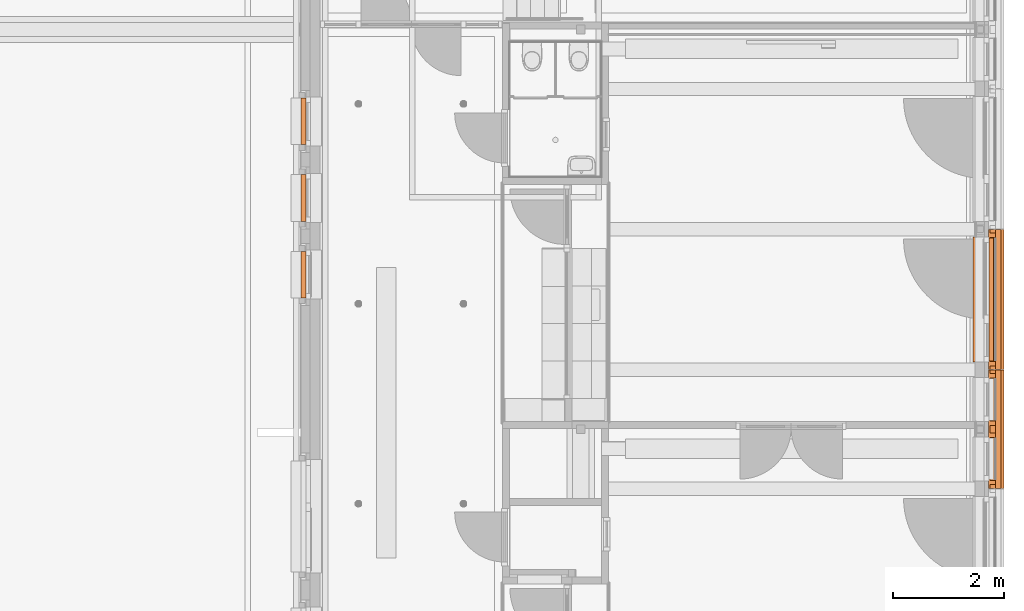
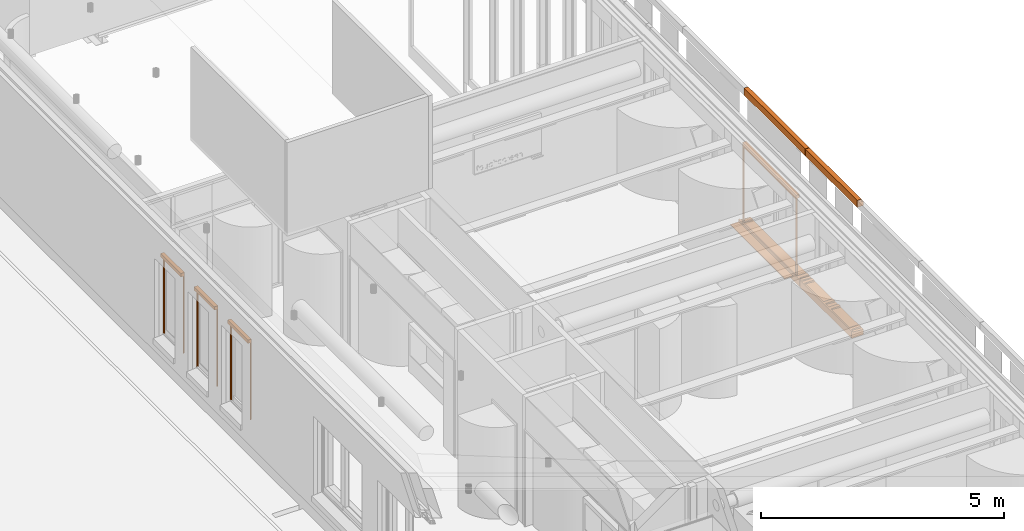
# One storey, part 104 of 128: 9 proxies.
"""IFC2X3 building model written with IfcOpenShell, lengths in millimetres."""

from ifc_helpers import new_model, entity, si_unit, converted_unit, derived_unit, direction, frame, frame_2d, origin, origin_2d_with_axis, place, context, subcontext, project, spatial, polyline, circle_curve, parameter, trimmed, segment, composite_curve, rectangle, outline, extrude, source, transform, mapped, material, material_list, type_object, type_shapes, element, save


model = new_model("IFC2X3")

# Units and contexts
model_context = context("Model", 3, precision=0.01, world=origin(), true_north=direction((6.123031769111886e-17, 1.0)))
body_context = subcontext(model_context, "Body", "Model", "MODEL_VIEW")
ifc_project = project(units=[si_unit("LENGTHUNIT", "METRE", prefix="MILLI"), si_unit("AREAUNIT", "SQUARE_METRE"), si_unit("VOLUMEUNIT", "CUBIC_METRE"), converted_unit("PLANEANGLEUNIT", "DEGREE", entity("IfcRatioMeasure", 0.017453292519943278), si_unit("PLANEANGLEUNIT", "RADIAN"), dimensions=[0, 0, 0, 0, 0, 0, 0]), si_unit("MASSUNIT", "GRAM", prefix="KILO"), derived_unit("MASSDENSITYUNIT", [(si_unit("MASSUNIT", "GRAM", prefix="KILO"), 1), (si_unit("LENGTHUNIT", "METRE"), -3)]), derived_unit("IONCONCENTRATIONUNIT", [(si_unit("MASSUNIT", "GRAM", prefix="KILO"), 1), (si_unit("LENGTHUNIT", "METRE"), -3)]), derived_unit("MOMENTOFINERTIAUNIT", [(si_unit("LENGTHUNIT", "METRE"), 4)]), si_unit("TIMEUNIT", "SECOND"), si_unit("FREQUENCYUNIT", "HERTZ"), si_unit("THERMODYNAMICTEMPERATUREUNIT", "DEGREE_CELSIUS"), derived_unit("THERMALTRANSMITTANCEUNIT", [(si_unit("MASSUNIT", "GRAM", prefix="KILO"), 1), (si_unit("THERMODYNAMICTEMPERATUREUNIT", "KELVIN"), -1), (si_unit("TIMEUNIT", "SECOND"), -3)]), derived_unit("THERMALCONDUCTANCEUNIT", [(si_unit("MASSUNIT", "GRAM", prefix="KILO"), 1), (si_unit("THERMODYNAMICTEMPERATUREUNIT", "KELVIN"), -1), (si_unit("TIMEUNIT", "SECOND"), -3), (si_unit("LENGTHUNIT", "METRE"), 1)]), derived_unit("VOLUMETRICFLOWRATEUNIT", [(si_unit("LENGTHUNIT", "METRE"), 3), (si_unit("TIMEUNIT", "SECOND"), -1)]), derived_unit("MASSFLOWRATEUNIT", [(si_unit("MASSUNIT", "GRAM", prefix="KILO"), 1), (si_unit("TIMEUNIT", "SECOND"), -1)]), derived_unit("ROTATIONALFREQUENCYUNIT", [(si_unit("TIMEUNIT", "SECOND"), -1)]), si_unit("ELECTRICCURRENTUNIT", "AMPERE"), si_unit("ELECTRICVOLTAGEUNIT", "VOLT"), si_unit("POWERUNIT", "WATT"), si_unit("FORCEUNIT", "NEWTON", prefix="KILO"), si_unit("ILLUMINANCEUNIT", "LUX"), si_unit("LUMINOUSFLUXUNIT", "LUMEN"), si_unit("LUMINOUSINTENSITYUNIT", "CANDELA"), derived_unit("USERDEFINED", [(si_unit("MASSUNIT", "GRAM", prefix="KILO"), -1), (si_unit("LENGTHUNIT", "METRE"), -2), (si_unit("TIMEUNIT", "SECOND"), 3), (si_unit("LUMINOUSFLUXUNIT", "LUMEN"), 1)]), derived_unit("USERDEFINED", [(si_unit("MASSUNIT", "GRAM", prefix="KILO"), 1), (si_unit("TIMEUNIT", "SECOND"), -3), (si_unit("LENGTHUNIT", "METRE"), 3), (si_unit("ELECTRICCURRENTUNIT", "AMPERE"), -2)]), derived_unit("SOUNDPOWERUNIT", [(si_unit("MASSUNIT", "GRAM", prefix="KILO"), 1), (si_unit("TIMEUNIT", "SECOND"), -3), (si_unit("LENGTHUNIT", "METRE"), 2)]), derived_unit("SOUNDPRESSUREUNIT", [(si_unit("MASSUNIT", "GRAM", prefix="KILO"), 1), (si_unit("LENGTHUNIT", "METRE"), -1), (si_unit("TIMEUNIT", "SECOND"), -2)]), derived_unit("LINEARVELOCITYUNIT", [(si_unit("LENGTHUNIT", "METRE"), 1), (si_unit("TIMEUNIT", "SECOND"), -1)]), si_unit("PRESSUREUNIT", "PASCAL"), derived_unit("USERDEFINED", [(si_unit("MASSUNIT", "GRAM", prefix="KILO"), 1), (si_unit("LENGTHUNIT", "METRE"), -2), (si_unit("TIMEUNIT", "SECOND"), -2)]), derived_unit("LINEARFORCEUNIT", [(si_unit("MASSUNIT", "GRAM", prefix="KILO"), 1), (si_unit("TIMEUNIT", "SECOND"), -2)]), derived_unit("PLANARFORCEUNIT", [(si_unit("MASSUNIT", "GRAM", prefix="KILO"), 1), (si_unit("LENGTHUNIT", "METRE"), -1), (si_unit("TIMEUNIT", "SECOND"), -2)]), derived_unit("SPECIFICHEATCAPACITYUNIT", [(si_unit("THERMODYNAMICTEMPERATUREUNIT", "KELVIN"), -1), (si_unit("LENGTHUNIT", "METRE"), 2), (si_unit("TIMEUNIT", "SECOND"), -2)]), derived_unit("HEATINGVALUEUNIT", [(si_unit("LENGTHUNIT", "METRE"), 2), (si_unit("TIMEUNIT", "SECOND"), -2)]), derived_unit("VAPORPERMEABILITYUNIT", [(si_unit("LENGTHUNIT", "METRE"), -1), (si_unit("TIMEUNIT", "SECOND"), 1)]), derived_unit("DYNAMICVISCOSITYUNIT", [(si_unit("MASSUNIT", "GRAM", prefix="KILO"), 1), (si_unit("TIMEUNIT", "SECOND"), -1), (si_unit("LENGTHUNIT", "METRE"), -1)]), derived_unit("THERMALEXPANSIONCOEFFICIENTUNIT", [(si_unit("THERMODYNAMICTEMPERATUREUNIT", "KELVIN"), -1)]), derived_unit("MODULUSOFELASTICITYUNIT", [(si_unit("MASSUNIT", "GRAM", prefix="KILO"), 1), (si_unit("LENGTHUNIT", "METRE"), -1), (si_unit("TIMEUNIT", "SECOND"), -2)]), derived_unit("ISOTHERMALMOISTURECAPACITYUNIT", [(si_unit("LENGTHUNIT", "METRE"), 3), (si_unit("MASSUNIT", "GRAM", prefix="KILO"), -1)]), derived_unit("MOISTUREDIFFUSIVITYUNIT", [(si_unit("TIMEUNIT", "SECOND"), -1), (si_unit("LENGTHUNIT", "METRE"), 2)])], contexts=[model_context])

# Site, building, storey
site_placement = place(None, frame((0.0, 300.0, 0.0)))
site = spatial("IfcSite", under=ifc_project, at=site_placement, Name="<Kadastrale nummers>", CompositionType="ELEMENT")
building_placement = place(site_placement, origin())
building = spatial("IfcBuilding", under=site, at=building_placement, CompositionType="ELEMENT")
storey_placement = place(building_placement, frame((0.0, 0.0, 3560.0000331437)))
storey = spatial("IfcBuildingStorey", under=building, at=storey_placement, Name="01 eerste verdieping", CompositionType="ELEMENT", Elevation=3560.0000331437)

# Proxies
ifc_material_1 = material(Name="ISR_Beton_prefab")
building_element_proxy_type_1 = type_object("IfcBuildingElementProxyType", Name="29_DAT_Prefab betonnen waterslag lang:22", PredefinedType="NOTDEFINED", material=ifc_material_1)
shared_shape_1 = source(origin(), body_context, "Body", "SweptSolid", [
    extrude(outline(polyline([(-16.052237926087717, -115.0), (26.113434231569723, -115.0), (5.9910416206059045, 115.0), (-16.052237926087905, 115.0), (-16.052237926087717, -115.0)])), frame((2377.0, 75.0, -16.05223792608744), z_axis=(1.0, 0.0, 0.0), x_axis=(0.0, 0.0, -1.0)), (0.0, 0.0, 1.0), 79.99999999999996),
    extrude(outline(polyline([(-16.052237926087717, -115.0), (26.113434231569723, -115.0), (5.9910416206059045, 115.0), (-16.052237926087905, 115.0), (-16.052237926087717, -115.0)])), frame((67.0, 75.0, -16.05223792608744), z_axis=(1.0, 0.0, 0.0), x_axis=(0.0, 0.0, -1.0)), (0.0, 0.0, 1.0), 80.00000000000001),
    extrude(outline(composite_curve([segment(polyline([(-140.0, -95.7340207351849), (-110.0, -95.7340207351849)]), True, "CONTINUOUS"), segment(polyline([(-110.0, -95.7340207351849), (-110.0, -73.7340207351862)]), True, "CONTINUOUS"), segment(polyline([(-110.0, -73.7340207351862), (140.0, -51.861854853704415)]), True, "CONTINUOUS"), segment(polyline([(140.0, -51.86185485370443), (140.0, 79.26597926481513)]), True, "CONTINUOUS"), segment(polyline([(140.0, 79.26597926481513), (115.0, 79.26597926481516)]), True, "CONTINUOUS"), segment(trimmed(circle_curve(frame_2d((110.0, 79.26597926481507), x_axis=(1.0, 0.0)), 5.000000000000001), [parameter(179.99999999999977)], [parameter(4.0711099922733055e-13)], True, "PARAMETER"), False, "CONTINUOUS"), segment(polyline([(105.0, 79.26597926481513), (-140.0, 79.26597926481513)]), True, "CONTINUOUS"), segment(polyline([(-140.0, 79.26597926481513), (-140.0, -95.7340207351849)]), True, "CONTINUOUS")], self_intersect=False)), frame((0.0, 80.0, -95.73402073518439), z_axis=(1.0, 0.0, 0.0), x_axis=(0.0, -1.0, 0.0)), (0.0, 0.0, 1.0), 2524.0000000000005),
])
type_shapes(building_element_proxy_type_1, [shared_shape_1])
proxy_1_placement = place(storey_placement, frame((48965.0, 24773.0, 890.0000018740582), z_axis=(0.0, 0.0, 1.0), x_axis=(0.0, 1.0, 0.0)))
element("IfcBuildingElementProxy", 1, at=proxy_1_placement, inside=storey, type_object=building_element_proxy_type_1, material=ifc_material_1, Name="29_DAT_Prefab betonnen waterslag lang:22", ObjectType="29_DAT_Prefab betonnen waterslag lang:22", context=body_context, shape_type="MappedRepresentation", body=[
    mapped(shared_shape_1, transform((0.0, 0.0, 0.0), scale=1.0)),
])
ifc_material_2 = material(Name="STAAL_RAL 7006")
ifc_material_3 = material(Name="<Unnamed>")
ifc_material_list = material_list([ifc_material_2, ifc_material_3])
building_element_proxy_type_2 = type_object("IfcBuildingElementProxyType", Name="31_DAT_Screen_zonwering_bak85:31_DAT_Screen_zonwering_bak85", PredefinedType="NOTDEFINED", material=ifc_material_list)
shared_shape_2 = source(origin(), body_context, "Body", "SweptSolid", [
    extrude(outline(polyline([(-60.69864841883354, -53.573897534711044), (20.695945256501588, -53.573897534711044), (20.695945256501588, 1.1216926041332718), (22.501351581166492, 1.1216926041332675), (22.501351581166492, 24.626102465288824), (17.501351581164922, 24.626102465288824), (17.501351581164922, 27.826102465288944), (-60.69864841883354, 27.826102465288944), (-60.69864841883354, -53.573897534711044)])), frame((2208.0, -29.62610246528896, 2752.501351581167), z_axis=(1.0, 0.0, 0.0), x_axis=(0.0, 0.0, -1.0)), (0.0, 0.0, 1.0), 1.999999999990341),
    extrude(outline(polyline([(-55.83243227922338, -51.08259835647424), (29.167567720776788, -51.08259835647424), (29.167567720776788, 5.412991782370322), (27.362161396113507, 5.412991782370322), (27.362161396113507, -49.28259835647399), (-54.032432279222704, -49.28259835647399), (-54.032432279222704, 32.117401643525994), (24.16756772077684, 32.117401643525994), (24.16756772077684, 28.91740164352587), (29.167567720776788, 28.91740164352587), (29.167567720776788, 33.917401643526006), (-55.83243227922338, 33.917401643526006), (-55.83243227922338, -51.08259835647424)])), frame((0.0, -33.917401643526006, 2759.1675677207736), z_axis=(1.0, 0.0, 0.0), x_axis=(0.0, 0.0, -1.0)), (0.0, 0.0, 1.0), 2210.000000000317),
    extrude(outline(polyline([(-60.69864841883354, -53.573897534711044), (20.695945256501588, -53.573897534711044), (20.695945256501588, 1.1216926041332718), (22.501351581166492, 1.1216926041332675), (22.501351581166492, 24.626102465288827), (17.501351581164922, 24.626102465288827), (17.501351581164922, 27.826102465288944), (-60.69864841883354, 27.826102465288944), (-60.69864841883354, -53.573897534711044)])), frame((0.0, -29.62610246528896, 2752.501351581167), z_axis=(1.0, 0.0, 0.0), x_axis=(0.0, 0.0, -1.0)), (0.0, 0.0, 1.0), 1.999999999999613),
    extrude(rectangle(XDim=2170.0000000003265, YDim=1.163311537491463, at=frame_2d((1.1368683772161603e-13, -2.1094237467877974e-15), x_axis=(1.0, 0.0))), frame((1105.0, -20.037293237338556, 2723.857769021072)), (0.0, 0.0, 1.0), 6.142230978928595),
    extrude(outline(composite_curve([segment(polyline([(-7.502327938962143, -23.023758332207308), (7.497672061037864, -23.023758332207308)]), True, "CONTINUOUS"), segment(trimmed(circle_curve(frame_2d((7.497672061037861, -21.523758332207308), x_axis=(0.0, -1.0)), 1.4999999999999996), [parameter(359.99999999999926)], [parameter(90.00000000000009)], True, "PARAMETER"), True, "CONTINUOUS"), segment(polyline([(8.997672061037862, -21.523758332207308), (8.997672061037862, 8.976241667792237)]), True, "CONTINUOUS"), segment(trimmed(circle_curve(frame_2d((5.99767206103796, 8.976241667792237), x_axis=(0.0, -1.0)), 3.0), [parameter(90.00000000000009)], [parameter(172.84454900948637)], True, "PARAMETER"), True, "CONTINUOUS"), segment(polyline([(6.371357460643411, 11.952877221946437), (2.232090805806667, 12.470504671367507)]), True, "CONTINUOUS"), segment(trimmed(circle_curve(frame_2d((2.1399803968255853, 11.733933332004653), x_axis=(0.0, -1.0)), 0.7423083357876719), [parameter(172.87199730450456)], [parameter(323.5235343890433)], True, "PARAMETER"), True, "CONTINUOUS"), segment(trimmed(circle_curve(frame_2d((-0.0023279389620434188, 8.976241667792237), x_axis=(0.0, -1.0)), 2.75), [parameter(217.47327986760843)], [parameter(141.78969998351)], True, "PARAMETER"), False, "CONTINUOUS"), segment(trimmed(circle_curve(frame_2d((-2.144636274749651, 11.733933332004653), x_axis=(0.0, -1.0)), 0.7423083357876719), [parameter(39.207114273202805)], [parameter(187.12800269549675)], True, "PARAMETER"), True, "CONTINUOUS"), segment(polyline([(-2.2367466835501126, 12.470504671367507), (-6.376013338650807, 11.952877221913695)]), True, "CONTINUOUS"), segment(trimmed(circle_curve(frame_2d((-6.002327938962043, 8.976241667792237), x_axis=(0.0, -1.0)), 3.0), [parameter(187.1554509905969)], [parameter(269.9999999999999)], True, "PARAMETER"), True, "CONTINUOUS"), segment(polyline([(-9.002327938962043, 8.976241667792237), (-9.002327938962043, -21.523758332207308)]), True, "CONTINUOUS"), segment(trimmed(circle_curve(frame_2d((-7.502327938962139, -21.523758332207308), x_axis=(0.0, -1.0)), 1.5000000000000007), [parameter(269.9999999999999)], [parameter(359.9999999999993)], True, "PARAMETER"), True, "CONTINUOUS")], self_intersect=False)), frame((20.0, -19.997672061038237, 2716.8815273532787), z_axis=(1.0, 0.0, 0.0), x_axis=(0.0, 1.0, 0.0)), (0.0, 0.0, 1.0), 2170.0000000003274),
    extrude(outline(polyline([(-14.638298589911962, -16.231574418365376), (-13.138298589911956, -16.231574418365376), (-13.138298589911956, 12.23272922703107), (-6.116685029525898, 12.23272922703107), (-6.116685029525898, -6.231574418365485), (-1.1166850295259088, -6.231574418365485), (-1.1166850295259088, -4.769580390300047), (-4.579546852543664, -4.769580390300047), (-4.579546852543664, 12.23272922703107), (13.866111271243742, 12.23272922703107), (13.866111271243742, -4.769580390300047), (10.361701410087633, -4.769580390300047), (10.361701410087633, -6.2315744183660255), (15.36170141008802, -6.2315744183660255), (15.36170141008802, 13.768425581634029), (-14.638298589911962, 13.768425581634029), (-14.638298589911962, -16.231574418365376)])), frame((2196.231574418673, -14.638298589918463, 800.0), z_axis=(0.0, 0.0, 1.0), x_axis=(0.0, -1.0, 0.0)), (0.0, 0.0, 1.0), 1930.000000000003),
    extrude(outline(polyline([(-16.231574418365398, -14.638298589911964), (13.768425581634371, -14.638298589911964), (13.76842558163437, 15.361701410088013), (-6.231574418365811, 15.361701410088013), (-6.231574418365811, 10.361701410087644), (-4.769580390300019, 10.361701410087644), (-4.769580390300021, 13.866111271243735), (12.2327292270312, 13.866111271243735), (12.2327292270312, -4.57954685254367), (-4.769580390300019, -4.57954685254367), (-4.769580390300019, -1.1166850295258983), (-6.231574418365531, -1.1166850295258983), (-6.231574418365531, -6.116685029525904), (12.232729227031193, -6.116685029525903), (12.232729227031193, -13.138298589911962), (-16.231574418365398, -13.138298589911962), (-16.231574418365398, -14.638298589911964)])), frame((13.768425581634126, -14.638298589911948, 800.0), z_axis=(0.0, 0.0, 1.0), x_axis=(-1.0, 0.0, 0.0)), (0.0, 0.0, 1.0), 1930.0000000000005),
])
type_shapes(building_element_proxy_type_2, [shared_shape_2])
proxy_2_placement = place(storey_placement, frame((48751.0, 24930.0, 100.00000187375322), z_axis=(0.0, 0.0, 1.0), x_axis=(0.0, 1.0, 0.0)))
element("IfcBuildingElementProxy", 2, at=proxy_2_placement, inside=storey, type_object=building_element_proxy_type_2, material=ifc_material_list, Name="31_DAT_Screen_zonwering_bak85:31_DAT_Screen_zonwering_bak85", ObjectType="31_DAT_Screen_zonwering_bak85:31_DAT_Screen_zonwering_bak85", context=body_context, shape_type="MappedRepresentation", body=[
    mapped(shared_shape_2, transform((0.0, 0.0, 0.0), scale=1.0)),
])
building_element_proxy_type_3 = type_object("IfcBuildingElementProxyType", Name="29_DAT_Prefab betonband afgeschuind:29_DAT_Prefab betonband afgeschuind", PredefinedType="NOTDEFINED", material=ifc_material_1)
shared_shape_3 = source(origin(), body_context, "Body", "SweptSolid", [
    extrude(outline(polyline([(-94.16666666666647, -83.33333333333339), (80.83333333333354, -83.33333333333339), (80.83333333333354, 16.66666666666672), (18.33333333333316, 16.666666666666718), (8.333333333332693, 66.66666666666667), (-94.16666666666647, 66.66666666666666), (-94.16666666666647, -83.33333333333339)])), frame((0.0, 16.66666666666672, -18.33333333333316), z_axis=(1.0, 0.0, 0.0), x_axis=(0.0, 0.0, 1.0)), (0.0, 0.0, 1.0), 2524.0000000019),
])
type_shapes(building_element_proxy_type_3, [shared_shape_3])
proxy_3_placement = place(storey_placement, frame((48975.0, 24773.0, 4077.4999668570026), z_axis=(0.0, 0.0, 1.0), x_axis=(0.0, 1.0, 0.0)))
element("IfcBuildingElementProxy", 3, at=proxy_3_placement, inside=storey, type_object=building_element_proxy_type_3, material=ifc_material_1, Name="29_DAT_Prefab betonband afgeschuind:29_DAT_Prefab betonband afgeschuind", ObjectType="29_DAT_Prefab betonband afgeschuind:29_DAT_Prefab betonband afgeschuind", context=body_context, shape_type="MappedRepresentation", body=[
    mapped(shared_shape_3, transform((0.0, 0.0, 0.0), scale=1.0)),
])

# Space
space_placement = place(storey_placement, origin())
space = spatial("IfcSpace", under=storey, at=space_placement, Name="1.21", CompositionType="ELEMENT", InteriorOrExteriorSpace="INTERNAL")

# Proxies
ifc_material_4 = material(Name="e1_natuursteen")
building_element_proxy_type_4 = type_object("IfcBuildingElementProxyType", Name="NLRS_31_GM_WPB_vensterbank natuursteen -SH_gen_ASN:200x18", PredefinedType="USERDEFINED", material=ifc_material_4)
shared_shape_4 = source(origin(), body_context, "Body", "SweptSolid", [
    extrude(rectangle(XDim=200.0, YDim=2250.000000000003, at=origin_2d_with_axis()), frame((0.0, -100.0, 0.0), z_axis=(0.0, 0.0, 1.0), x_axis=(0.0, -1.0, 0.0)), (0.0, 0.0, 1.0), 17.999999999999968),
])
type_shapes(building_element_proxy_type_4, [shared_shape_4])
proxy_4_placement = place(space_placement, frame((48468.0, 26035.0, 920.0000018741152), z_axis=(0.0, 0.0, 1.0), x_axis=(0.0, 1.0, 0.0)))
element("IfcBuildingElementProxy", 4, at=proxy_4_placement, inside=space, type_object=building_element_proxy_type_4, material=ifc_material_4, Name="NLRS_31_GM_WPB_vensterbank natuursteen -SH_gen_ASN:200x18", ObjectType="NLRS_31_GM_WPB_vensterbank natuursteen -SH_gen_ASN:200x18", context=body_context, shape_type="MappedRepresentation", body=[
    mapped(shared_shape_4, transform((0.0, 0.0, 0.0), scale=1.0)),
])
building_element_proxy_type_5 = type_object("IfcBuildingElementProxyType", Name="31_DAT_Screen_zonwering_bak85:31_DAT_Screen_zonwering_bak85", PredefinedType="NOTDEFINED", material=ifc_material_list)
shared_shape_5 = source(origin(), body_context, "Body", "SweptSolid", [
    extrude(outline(polyline([(-53.573897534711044, -60.698648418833), (27.826102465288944, -60.698648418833), (27.826102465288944, 17.501351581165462), (24.626102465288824, 17.501351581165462), (24.626102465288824, 22.501351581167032), (1.1216926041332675, 22.501351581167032), (1.1216926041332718, 20.695945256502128), (-53.573897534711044, 20.695945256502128), (-53.573897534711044, -60.698648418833)])), frame((838.0, 29.62610246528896, 2772.501351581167), z_axis=(1.0, 0.0, 0.0), x_axis=(0.0, -1.0, 0.0)), (0.0, 0.0, 1.0), 1.9999999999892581),
    extrude(outline(polyline([(-51.082598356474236, -55.832432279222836), (33.91740164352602, -55.832432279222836), (33.91740164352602, 29.167567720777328), (28.91740164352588, 29.167567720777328), (28.91740164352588, 24.16756772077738), (32.117401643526, 24.16756772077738), (32.117401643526, -54.032432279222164), (-49.28259835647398, -54.032432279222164), (-49.28259835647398, 27.362161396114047), (5.41299178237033, 27.362161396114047), (5.41299178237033, 29.167567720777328), (-51.082598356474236, 29.167567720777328), (-51.082598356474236, -55.832432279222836)])), frame((0.0, 33.91740164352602, 2779.1675677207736), z_axis=(1.0, 0.0, 0.0), x_axis=(0.0, -1.0, 0.0)), (0.0, 0.0, 1.0), 839.9999999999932),
    extrude(outline(polyline([(-53.573897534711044, -60.698648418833), (27.826102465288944, -60.698648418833), (27.826102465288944, 17.501351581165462), (24.626102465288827, 17.501351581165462), (24.626102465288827, 22.501351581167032), (1.1216926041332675, 22.501351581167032), (1.1216926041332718, 20.695945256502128), (-53.573897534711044, 20.695945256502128), (-53.573897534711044, -60.698648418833)])), frame((0.0, 29.62610246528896, 2772.501351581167), z_axis=(1.0, 0.0, 0.0), x_axis=(0.0, -1.0, 0.0)), (0.0, 0.0, 1.0), 1.999999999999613),
    extrude(rectangle(XDim=1.163311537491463, YDim=800.0000000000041, at=frame_2d((2.1094237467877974e-15, 0.0), x_axis=(1.0, 0.0))), frame((420.0, 20.03729323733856, 2750.0), z_axis=(0.0, 0.0, 1.0), x_axis=(0.0, -1.0, 0.0)), (0.0, 0.0, 1.0), 47.3934410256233),
    extrude(outline(composite_curve([segment(trimmed(circle_curve(frame_2d((21.523758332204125, 7.502327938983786), x_axis=(1.0, 0.0)), 1.5000000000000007), [parameter(6.615553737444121e-13)], [parameter(90.00000000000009)], True, "PARAMETER"), True, "CONTINUOUS"), segment(polyline([(21.523758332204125, 9.00232793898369), (-8.97624166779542, 9.00232793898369)]), True, "CONTINUOUS"), segment(trimmed(circle_curve(frame_2d((-8.97624166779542, 6.00232793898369), x_axis=(1.0, 0.0)), 3.0), [parameter(90.00000000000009)], [parameter(172.8445490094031)], True, "PARAMETER"), True, "CONTINUOUS"), segment(polyline([(-11.952877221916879, 6.376013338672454), (-12.470504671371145, 2.2367466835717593)]), True, "CONTINUOUS"), segment(trimmed(circle_curve(frame_2d((-11.733933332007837, 2.1446362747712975), x_axis=(1.0, 0.0)), 0.7423083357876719), [parameter(172.87199730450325)], [parameter(320.7928857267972)], True, "PARAMETER"), True, "CONTINUOUS"), segment(trimmed(circle_curve(frame_2d((-8.97624166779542, 0.002327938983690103), x_axis=(1.0, 0.0)), 2.75), [parameter(218.21030001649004)], [parameter(142.52672013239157)], True, "PARAMETER"), False, "CONTINUOUS"), segment(trimmed(circle_curve(frame_2d((-11.733933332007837, -2.1399803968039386), x_axis=(1.0, 0.0)), 0.7423083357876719), [parameter(36.476465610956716)], [parameter(187.12800269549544)], True, "PARAMETER"), True, "CONTINUOUS"), segment(polyline([(-12.470504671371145, -2.2320908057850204), (-11.95287722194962, -6.3713574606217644)]), True, "CONTINUOUS"), segment(trimmed(circle_curve(frame_2d((-8.97624166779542, -5.9976720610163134), x_axis=(1.0, 0.0)), 3.0), [parameter(187.15545099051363)], [parameter(269.9999999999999)], True, "PARAMETER"), True, "CONTINUOUS"), segment(polyline([(-8.97624166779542, -8.997672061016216), (21.523758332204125, -8.997672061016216)]), True, "CONTINUOUS"), segment(trimmed(circle_curve(frame_2d((21.523758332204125, -7.497672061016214), x_axis=(1.0, 0.0)), 1.4999999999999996), [parameter(269.9999999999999)], [parameter(7.124442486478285e-13)], True, "PARAMETER"), True, "CONTINUOUS"), segment(polyline([(23.02375833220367, -7.4976720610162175), (23.02375833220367, 7.50232793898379)]), True, "CONTINUOUS")], self_intersect=False)), frame((20.0, 19.99767206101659, 2790.417199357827), z_axis=(1.0, 0.0, 0.0), x_axis=(0.0, 0.0, -1.0)), (0.0, 0.0, 1.0), 800.0000000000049),
    extrude(outline(polyline([(-16.231574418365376, -14.638298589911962), (13.768425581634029, -14.638298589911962), (13.768425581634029, 15.36170141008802), (-6.2315744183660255, 15.36170141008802), (-6.2315744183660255, 10.361701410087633), (-4.769580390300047, 10.361701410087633), (-4.769580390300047, 13.866111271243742), (12.23272922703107, 13.866111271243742), (12.23272922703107, -4.579546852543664), (-4.769580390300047, -4.579546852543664), (-4.769580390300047, -1.1166850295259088), (-6.231574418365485, -1.1166850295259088), (-6.231574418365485, -6.116685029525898), (12.232729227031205, -6.116685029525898), (12.232729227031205, -13.138298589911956), (-16.231574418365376, -13.138298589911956), (-16.231574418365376, -14.638298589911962)])), frame((826.2315744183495, 14.638298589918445, 810.0)), (0.0, 0.0, 1.0), 1940.0000000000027),
    extrude(outline(polyline([(-14.638298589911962, -16.231574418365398), (-13.13829858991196, -16.231574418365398), (-13.13829858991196, 12.232729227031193), (-6.116685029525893, 12.232729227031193), (-6.116685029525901, -6.231574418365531), (-1.116685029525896, -6.231574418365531), (-1.116685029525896, -4.769580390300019), (-4.579546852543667, -4.769580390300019), (-4.579546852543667, 12.2327292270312), (13.866111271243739, 12.2327292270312), (13.866111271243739, -4.769580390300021), (10.361701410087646, -4.769580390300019), (10.361701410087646, -6.231574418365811), (15.361701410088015, -6.231574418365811), (15.361701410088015, 13.76842558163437), (-14.638298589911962, 13.76842558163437), (-14.638298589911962, -16.231574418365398)])), frame((13.768425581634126, 14.638298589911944, 810.0), z_axis=(0.0, 0.0, 1.0), x_axis=(0.0, 1.0, 0.0)), (0.0, 0.0, 1.0), 1940.0000000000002),
])
type_shapes(building_element_proxy_type_5, [shared_shape_5])
for number, where, z_axis, x_axis, name in (
    (5, (36449.0, 26065.0, 90.00000187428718), (0.0, 0.0, 1.0), (0.0, 1.0, 0.0), "31_DAT_Screen_zonwering_bak85:31_DAT_Screen_zonwering_bak85"),
    (6, (36449.0, 27445.0, 90.00000187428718), (0.0, 0.0, 1.0), (0.0, 1.0, 0.0), "31_DAT_Screen_zonwering_bak85:31_DAT_Screen_zonwering_bak85"),
    (7, (36449.0, 28825.0, 90.00000187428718), (0.0, 0.0, 1.0), (0.0, 1.0, 0.0), "31_DAT_Screen_zonwering_bak85:31_DAT_Screen_zonwering_bak85"),
):
    element("IfcBuildingElementProxy", number, at=place(storey_placement, frame(where, z_axis=z_axis, x_axis=x_axis)), inside=storey, type_object=building_element_proxy_type_5, material=ifc_material_list, Name=name, ObjectType="31_DAT_Screen_zonwering_bak85:31_DAT_Screen_zonwering_bak85", context=body_context, shape_type="MappedRepresentation", body=[
        mapped(shared_shape_5, transform((0.0, 0.0, 0.0), scale=1.0)),
    ])
building_element_proxy_type_6 = type_object("IfcBuildingElementProxyType", Name="29_DAT_Prefab betonnen waterslag lang:29 dubbel 1", PredefinedType="NOTDEFINED", material=ifc_material_1)
shared_shape_6 = source(origin(), body_context, "Body", "SweptSolid", [
    extrude(outline(polyline([(-16.052237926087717, -115.0), (26.113434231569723, -115.0), (5.9910416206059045, 115.0), (-16.052237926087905, 115.0), (-16.052237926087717, -115.0)])), frame((1987.0, 75.0, -16.05223792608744), z_axis=(1.0, 0.0, 0.0), x_axis=(0.0, 0.0, -1.0)), (0.0, 0.0, 1.0), 79.99999999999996),
    extrude(outline(polyline([(-16.052237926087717, -115.0), (26.113434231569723, -115.0), (5.9910416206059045, 115.0), (-16.052237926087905, 115.0), (-16.052237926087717, -115.0)])), frame((1137.0, 75.0, -16.05223792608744), z_axis=(1.0, 0.0, 0.0), x_axis=(0.0, 0.0, -1.0)), (0.0, 0.0, 1.0), 79.99999999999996),
    extrude(outline(polyline([(-16.052237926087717, -115.0), (26.113434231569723, -115.0), (5.9910416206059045, 115.0), (-16.052237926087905, 115.0), (-16.052237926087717, -115.0)])), frame((917.0, 75.0, -16.05223792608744), z_axis=(1.0, 0.0, 0.0), x_axis=(0.0, 0.0, -1.0)), (0.0, 0.0, 1.0), 79.99999999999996),
    extrude(outline(polyline([(-16.052237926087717, -115.0), (26.113434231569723, -115.0), (5.9910416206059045, 115.0), (-16.052237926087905, 115.0), (-16.052237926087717, -115.0)])), frame((67.0, 75.0, -16.05223792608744), z_axis=(1.0, 0.0, 0.0), x_axis=(0.0, 0.0, -1.0)), (0.0, 0.0, 1.0), 80.00000000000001),
    extrude(outline(composite_curve([segment(polyline([(-140.0, -95.7340207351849), (-110.0, -95.7340207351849)]), True, "CONTINUOUS"), segment(polyline([(-110.0, -95.7340207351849), (-110.0, -73.7340207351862)]), True, "CONTINUOUS"), segment(polyline([(-110.0, -73.7340207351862), (140.0, -51.861854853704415)]), True, "CONTINUOUS"), segment(polyline([(140.0, -51.86185485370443), (140.0, 79.26597926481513)]), True, "CONTINUOUS"), segment(polyline([(140.0, 79.26597926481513), (115.0, 79.26597926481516)]), True, "CONTINUOUS"), segment(trimmed(circle_curve(frame_2d((110.0, 79.26597926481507), x_axis=(1.0, 0.0)), 5.000000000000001), [parameter(179.99999999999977)], [parameter(4.0711099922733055e-13)], True, "PARAMETER"), False, "CONTINUOUS"), segment(polyline([(105.0, 79.26597926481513), (-140.0, 79.26597926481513)]), True, "CONTINUOUS"), segment(polyline([(-140.0, 79.26597926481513), (-140.0, -95.7340207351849)]), True, "CONTINUOUS")], self_intersect=False)), frame((0.0, 80.0, -95.73402073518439), z_axis=(1.0, 0.0, 0.0), x_axis=(0.0, -1.0, 0.0)), (0.0, 0.0, 1.0), 2134.0000000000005),
])
type_shapes(building_element_proxy_type_6, [shared_shape_6])
proxy_5_placement = place(storey_placement, frame((48965.0, 22633.0, 890.0000018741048), z_axis=(0.0, 0.0, 1.0), x_axis=(0.0, 1.0, 0.0)))
element("IfcBuildingElementProxy", 8, at=proxy_5_placement, inside=storey, type_object=building_element_proxy_type_6, material=ifc_material_1, Name="29_DAT_Prefab betonnen waterslag lang:29 dubbel 1", ObjectType="29_DAT_Prefab betonnen waterslag lang:29 dubbel 1", context=body_context, shape_type="MappedRepresentation", body=[
    mapped(shared_shape_6, transform((0.0, 0.0, 0.0), scale=1.0)),
])
building_element_proxy_type_7 = type_object("IfcBuildingElementProxyType", Name="29_DAT_Prefab betonband afgeschuind:29_DAT_Prefab betonband afgeschuind", PredefinedType="NOTDEFINED", material=ifc_material_1)
shared_shape_7 = source(origin(), body_context, "Body", "SweptSolid", [
    extrude(outline(polyline([(-94.16666666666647, -83.33333333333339), (80.83333333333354, -83.33333333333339), (80.83333333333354, 16.66666666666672), (18.33333333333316, 16.666666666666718), (8.333333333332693, 66.66666666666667), (-94.16666666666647, 66.66666666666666), (-94.16666666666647, -83.33333333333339)])), frame((0.0, 16.66666666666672, -18.33333333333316), z_axis=(1.0, 0.0, 0.0), x_axis=(0.0, 0.0, 1.0)), (0.0, 0.0, 1.0), 2133.999999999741),
])
type_shapes(building_element_proxy_type_7, [shared_shape_7])
proxy_6_placement = place(storey_placement, frame((48975.0, 22633.0, 4077.499966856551), z_axis=(0.0, 0.0, 1.0), x_axis=(0.0, 1.0, 0.0)))
element("IfcBuildingElementProxy", 9, at=proxy_6_placement, inside=storey, type_object=building_element_proxy_type_7, material=ifc_material_1, Name="29_DAT_Prefab betonband afgeschuind:29_DAT_Prefab betonband afgeschuind", ObjectType="29_DAT_Prefab betonband afgeschuind:29_DAT_Prefab betonband afgeschuind", context=body_context, shape_type="MappedRepresentation", body=[
    mapped(shared_shape_7, transform((0.0, 0.0, 0.0), scale=1.0)),
])

save(model, "model.ifc")
